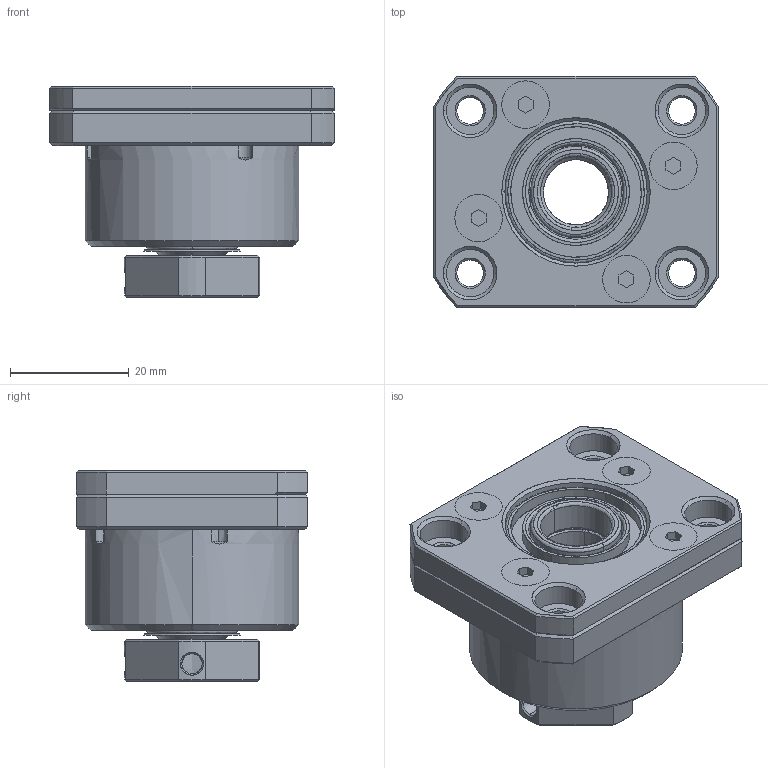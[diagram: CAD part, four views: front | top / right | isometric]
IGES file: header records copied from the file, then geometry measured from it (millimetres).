
Start section: SolidWorks IGES file using analytic representation for surfaces
Bounding box: 48 x 39 x 35.6 mm (x, y, z)
Surface area: 13484.8 mm2 (no closed solid volume)
Topology: 0 solids, 0 shells, 241 faces, 3258 edges, 3258 vertices
Faces by surface type: revolution 131, bspline 110
